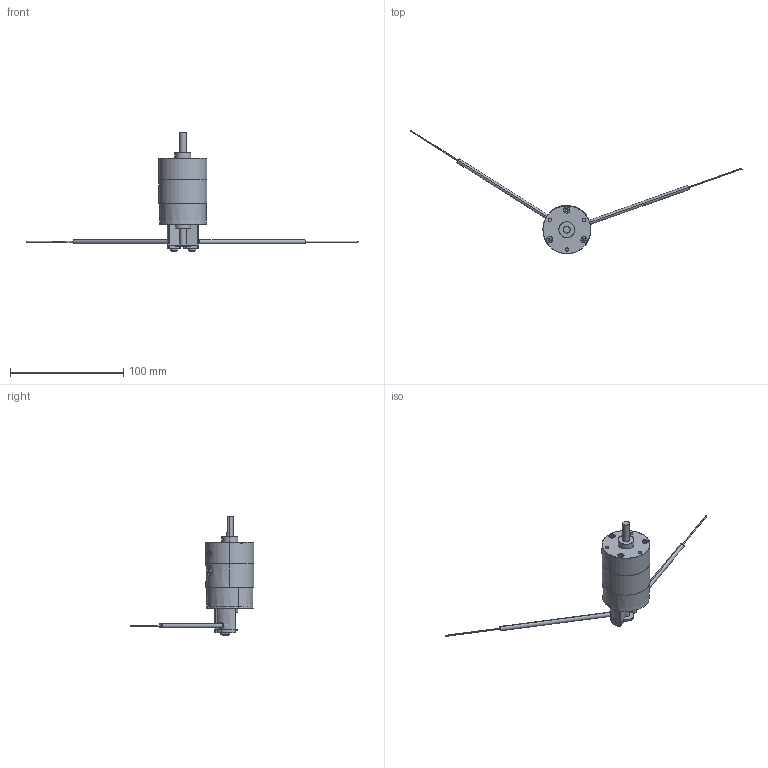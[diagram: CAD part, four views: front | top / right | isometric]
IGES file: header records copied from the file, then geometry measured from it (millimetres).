
Start section: SolidWorks IGES file using analytic representation for surfaces
Global section: file name: C:\Users\Chieh_Lu\Dropbox\¤u§@«Ç\PRO\PROA10S\PROA10S-#-#\PROA10S-#-#-#-FU.IGS; native system: SolidWorks 2014; preprocessor: SolidWorks 2014; author: Chieh_Lu; date: 150731.005859; units: millimetre
Bounding box: 293.74 x 109.48 x 105.61 mm (x, y, z)
Surface area: 31911.1 mm2 (no closed solid volume)
Topology: 0 solids, 0 shells, 524 faces, 7876 edges, 7864 vertices
Faces by surface type: revolution 270, bspline 254
